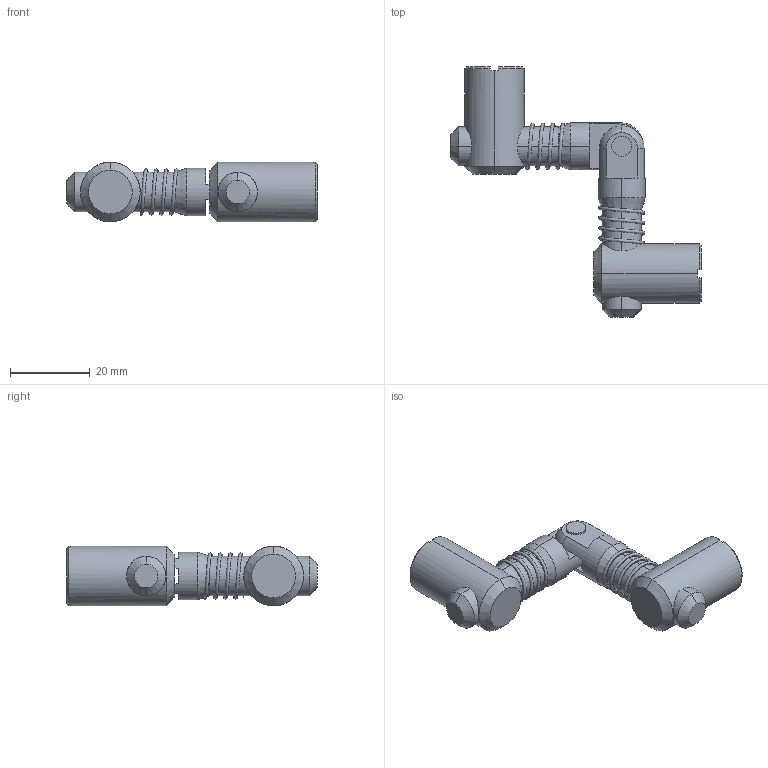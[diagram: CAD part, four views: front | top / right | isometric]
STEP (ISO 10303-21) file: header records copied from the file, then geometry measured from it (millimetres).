
FILE_DESCRIPTION (( 'STEP AP214' ), '1' );
FILE_NAME ('2.04.spmc.STEP', '2015-05-30T09:31:59', ( '' ), ( '' ), 'SwSTEP 2.0', 'SolidWorks 2015', '' );
FILE_SCHEMA (( 'AUTOMOTIVE_DESIGN' ));
Length unit declared in the file: millimetre
Products named in the file (1): 2.04.spmc
Bounding box: 63 x 63 x 15 mm (x, y, z)
Surface area: 8845.7 mm2 (no closed solid volume)
Topology: 0 solids, 9 shells, 119 faces, 314 edges, 203 vertices
Faces by surface type: plane 63, cone 24, cylinder 22, sphere 6, bspline 4
Entity records: 7531 total; most frequent: CARTESIAN_POINT 4587, DIRECTION 598, ORIENTED_EDGE 584, EDGE_CURVE 306, AXIS2_PLACEMENT_3D 224, VERTEX_POINT 201, VECTOR 150, LINE 150
